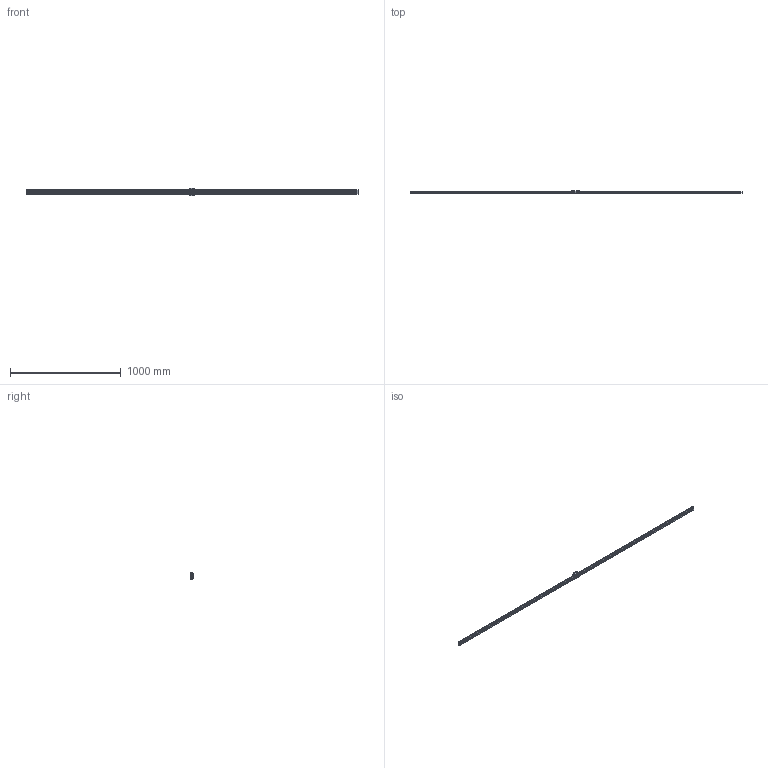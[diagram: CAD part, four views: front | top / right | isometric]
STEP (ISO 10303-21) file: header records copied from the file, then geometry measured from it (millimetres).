
FILE_DESCRIPTION(/* description */ ('STEP AP214'),/* implementation_level */ '2;1');
FILE_NAME(/* name */ 'HRW21CA1UU-3000LT_G25_0_B-M6F_1470-6_0_0_0_1',/* time_stamp */ '2023-09-26T15:04:19+02:00',/* author */ ('License CC BY-ND 4.0'),/* organization */ ('CADENAS'),/* preprocessor_version */ 'ST-DEVELOPER v19.3',/* originating_system */ 'PARTsolutions',/* authorisation */ ' ');
FILE_SCHEMA (('AUTOMOTIVE_DESIGN {1 0 10303 214 3 1 1}'));
Length unit declared in the file: millimetre
Products named in the file (4): HRW21CA1UU-3000LT_G25_0_B-M6F_1470-6_0_0_0_1; HRW-B-M6F_grease_nipple_joint; HRW21CAUUB-M6F1 Slide17-60; HRW21CA300025 Track
Assembly tree (3 placements, depth 2):
  HRW21CA1UU-3000LT_G25_0_B-M6F_1470-6_0_0_0_1
    HRW-B-M6F_grease_nipple_joint
    HRW21CAUUB-M6F1 Slide17-60
    HRW21CA300025 Track
Bounding box: 3000 x 21.12 x 68 mm (x, y, z)
Volume: 1124480.5 mm3; surface area: 333310.7 mm2
Topology: 3 solids, 3 shells, 694 faces, 1592 edges, 1049 vertices
Faces by surface type: plane 366, cylinder 286, cone 33, torus 6, sphere 3
Full cylindrical faces by diameter (mm): 3 x4, 4.134 x2, 4.4 x4, 4.5 x120, 4.917 x2, 5 x8, 6 x1, 7.5 x122, 8 x1
Entity records: 18829 total; most frequent: DIRECTION 3256, CARTESIAN_POINT 3185, ORIENTED_EDGE 2564, FACE_BOUND 1393, EDGE_LOOP 1391, AXIS2_PLACEMENT_3D 1312, EDGE_CURVE 1282, VERTEX_POINT 1041
